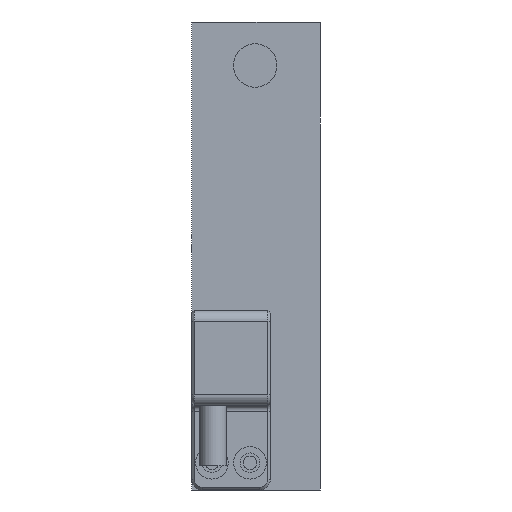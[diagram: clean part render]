
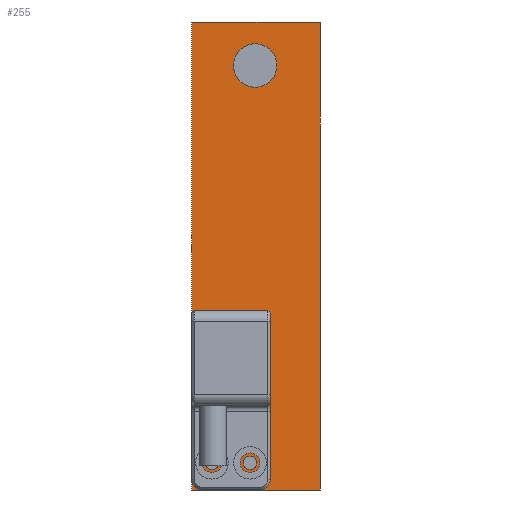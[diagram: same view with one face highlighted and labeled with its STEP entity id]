
A CAD part, left-side view. The second image highlights one B-rep face of the part: STEP entity #255.
In plain terms, the highlighted planar face has unit normal (-1, 0, 0).
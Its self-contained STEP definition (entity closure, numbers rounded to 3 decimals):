
#255 = ADVANCED_FACE( '', ( #578, #579, #580, #581 ), #582, .T. );
#578 = FACE_BOUND( '', #974, .T. );
#579 = FACE_BOUND( '', #975, .T. );
#580 = FACE_BOUND( '', #976, .T. );
#581 = FACE_OUTER_BOUND( '', #977, .T. );
#582 = PLANE( '', #978 );
#974 = EDGE_LOOP( '', ( #1517 ) );
#975 = EDGE_LOOP( '', ( #1518 ) );
#976 = EDGE_LOOP( '', ( #1519 ) );
#977 = EDGE_LOOP( '', ( #1520, #1521, #1522, #1523 ) );
#978 = AXIS2_PLACEMENT_3D( '', #1524, #1525, #1526 );
#1517 = ORIENTED_EDGE( '', *, *, #2088, .T. );
#1518 = ORIENTED_EDGE( '', *, *, #2089, .T. );
#1519 = ORIENTED_EDGE( '', *, *, #2053, .F. );
#1520 = ORIENTED_EDGE( '', *, *, #2012, .F. );
#1521 = ORIENTED_EDGE( '', *, *, #2076, .F. );
#1522 = ORIENTED_EDGE( '', *, *, #2032, .T. );
#1523 = ORIENTED_EDGE( '', *, *, #2090, .T. );
#1524 = CARTESIAN_POINT( '', ( -59., 23.7, 43. ) );
#1525 = DIRECTION( '', ( -1., 0., 0. ) );
#1526 = DIRECTION( '', ( 0., 0., 1. ) );
#2012 = EDGE_CURVE( '', #2347, #2348, #2349, .T. );
#2032 = EDGE_CURVE( '', #2381, #2382, #2383, .T. );
#2053 = EDGE_CURVE( '', #2409, #2409, #2410, .T. );
#2076 = EDGE_CURVE( '', #2381, #2347, #2439, .T. );
#2088 = EDGE_CURVE( '', #2452, #2452, #2453, .T. );
#2089 = EDGE_CURVE( '', #2454, #2454, #2455, .T. );
#2090 = EDGE_CURVE( '', #2382, #2348, #2456, .T. );
#2347 = VERTEX_POINT( '', #2742 );
#2348 = VERTEX_POINT( '', #2743 );
#2349 = LINE( '', #2744, #2745 );
#2381 = VERTEX_POINT( '', #2789 );
#2382 = VERTEX_POINT( '', #2790 );
#2383 = LINE( '', #2791, #2792 );
#2409 = VERTEX_POINT( '', #2824 );
#2410 = CIRCLE( '', #2825, 4. );
#2439 = LINE( '', #2861, #2862 );
#2452 = VERTEX_POINT( '', #2880 );
#2453 = CIRCLE( '', #2881, 1.23 );
#2454 = VERTEX_POINT( '', #2882 );
#2455 = CIRCLE( '', #2883, 1.23 );
#2456 = LINE( '', #2884, #2885 );
#2742 = CARTESIAN_POINT( '', ( -59., 0., 43. ) );
#2743 = CARTESIAN_POINT( '', ( -59., 0., -43. ) );
#2744 = CARTESIAN_POINT( '', ( -59., 0., 43. ) );
#2745 = VECTOR( '', #3152, 1000. );
#2789 = CARTESIAN_POINT( '', ( -59., 23.7, 43. ) );
#2790 = CARTESIAN_POINT( '', ( -59., 23.7, -43. ) );
#2791 = CARTESIAN_POINT( '', ( -59., 23.7, 43. ) );
#2792 = VECTOR( '', #3171, 1000. );
#2824 = CARTESIAN_POINT( '', ( -59., 12., 39. ) );
#2825 = AXIS2_PLACEMENT_3D( '', #3199, #3200, #3201 );
#2861 = CARTESIAN_POINT( '', ( -59., 23.7, 43. ) );
#2862 = VECTOR( '', #3233, 1000. );
#2880 = CARTESIAN_POINT( '', ( -59., 19.95, -36.77 ) );
#2881 = AXIS2_PLACEMENT_3D( '', #3245, #3246, #3247 );
#2882 = CARTESIAN_POINT( '', ( -59., 12.95, -36.77 ) );
#2883 = AXIS2_PLACEMENT_3D( '', #3248, #3249, #3250 );
#2884 = CARTESIAN_POINT( '', ( -59., 23.7, -43. ) );
#2885 = VECTOR( '', #3251, 1000. );
#3152 = DIRECTION( '', ( 0., 0., -1. ) );
#3171 = DIRECTION( '', ( 0., 0., -1. ) );
#3199 = CARTESIAN_POINT( '', ( -59., 12., 35. ) );
#3200 = DIRECTION( '', ( -1., 0., 0. ) );
#3201 = DIRECTION( '', ( 0., 0., 1. ) );
#3233 = DIRECTION( '', ( 0., -1., 0. ) );
#3245 = CARTESIAN_POINT( '', ( -59., 19.95, -38. ) );
#3246 = DIRECTION( '', ( 1., 0., 0. ) );
#3247 = DIRECTION( '', ( 0., 0., 1. ) );
#3248 = CARTESIAN_POINT( '', ( -59., 12.95, -38. ) );
#3249 = DIRECTION( '', ( 1., 0., 0. ) );
#3250 = DIRECTION( '', ( 0., 0., 1. ) );
#3251 = DIRECTION( '', ( 0., -1., 0. ) );
